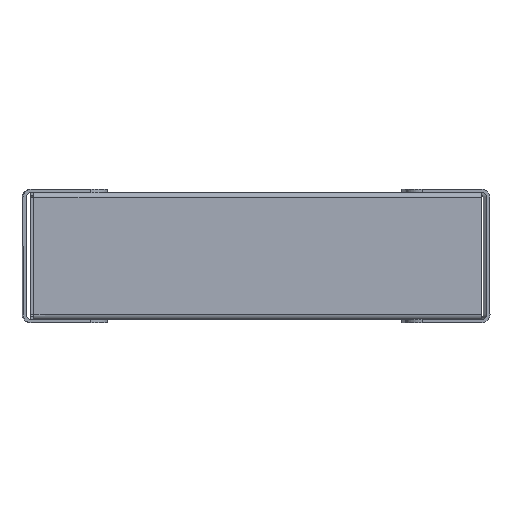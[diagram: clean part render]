
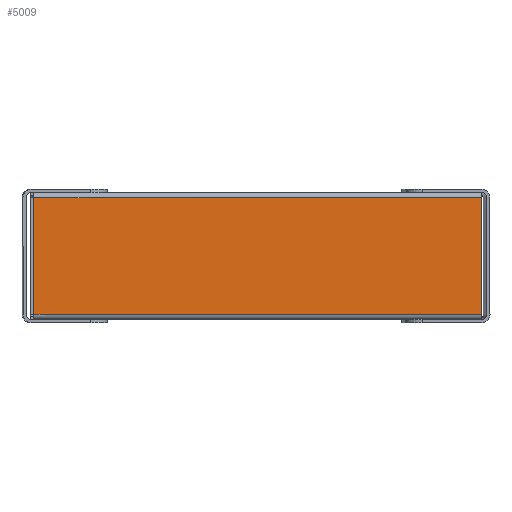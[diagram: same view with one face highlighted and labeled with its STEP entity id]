
A CAD part, left-side view. The second image highlights one B-rep face of the part: STEP entity #5009.
In plain terms, the highlighted planar face has unit normal (-1, -0.006, 0).
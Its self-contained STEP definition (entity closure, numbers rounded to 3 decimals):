
#4982=AXIS2_PLACEMENT_3D('Plane Axis2P3D',#4979,#4980,#4981) ;
#4948=CARTESIAN_POINT('Vertex',(-526.003,475.24,411.159)) ;
#4964=CARTESIAN_POINT('Vertex',(-527.682,742.944,411.029)) ;
#4967=CARTESIAN_POINT('Line Origine',(-526.842,608.977,411.094)) ;
#4979=CARTESIAN_POINT('Axis2P3D Location',(-527.682,742.908,338.029)) ;
#4984=CARTESIAN_POINT('Line Origine',(-526.003,475.224,376.159)) ;
#4988=CARTESIAN_POINT('Vertex',(-526.003,475.207,341.159)) ;
#4991=CARTESIAN_POINT('Line Origine',(-527.682,742.927,376.029)) ;
#4995=CARTESIAN_POINT('Vertex',(-527.682,742.91,341.029)) ;
#4998=CARTESIAN_POINT('Line Origine',(-526.843,609.058,341.094)) ;
#4968=DIRECTION('Vector Direction',(0.006,-1.,0.)) ;
#4980=DIRECTION('Axis2P3D Direction',(-1.,-0.006,0.)) ;
#4981=DIRECTION('Axis2P3D XDirection',(0.006,-1.,0.)) ;
#4985=DIRECTION('Vector Direction',(0.,0.,1.)) ;
#4992=DIRECTION('Vector Direction',(0.,0.,1.)) ;
#4999=DIRECTION('Vector Direction',(0.006,-1.,0.)) ;
#4969=VECTOR('Line Direction',#4968,1.) ;
#4986=VECTOR('Line Direction',#4985,1.) ;
#4993=VECTOR('Line Direction',#4992,1.) ;
#5000=VECTOR('Line Direction',#4999,1.) ;
#5004=ORIENTED_EDGE('',*,*,#4990,.T.) ;
#5005=ORIENTED_EDGE('',*,*,#4971,.F.) ;
#5006=ORIENTED_EDGE('',*,*,#4997,.F.) ;
#5007=ORIENTED_EDGE('',*,*,#5002,.T.) ;
#5009=ADVANCED_FACE('\X2\96F64EF6\X0\1.6\\\X2\51E04F554F53\X0\.17',(#5008),#4983,.T.) ;
#4971=EDGE_CURVE('',#4965,#4949,#4970,.T.) ;
#4990=EDGE_CURVE('',#4989,#4949,#4987,.T.) ;
#4997=EDGE_CURVE('',#4996,#4965,#4994,.T.) ;
#5002=EDGE_CURVE('',#4996,#4989,#5001,.T.) ;
#5003=EDGE_LOOP('',(#5004,#5005,#5006,#5007)) ;
#5008=FACE_OUTER_BOUND('',#5003,.T.) ;
#4970=LINE('Line',#4967,#4969) ;
#4987=LINE('Line',#4984,#4986) ;
#4994=LINE('Line',#4991,#4993) ;
#5001=LINE('Line',#4998,#5000) ;
#4983=PLANE('Plane',#4982) ;
#4949=VERTEX_POINT('',#4948) ;
#4965=VERTEX_POINT('',#4964) ;
#4989=VERTEX_POINT('',#4988) ;
#4996=VERTEX_POINT('',#4995) ;
